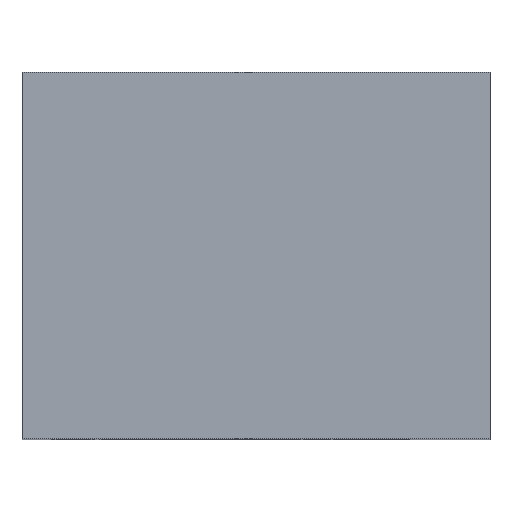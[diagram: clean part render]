
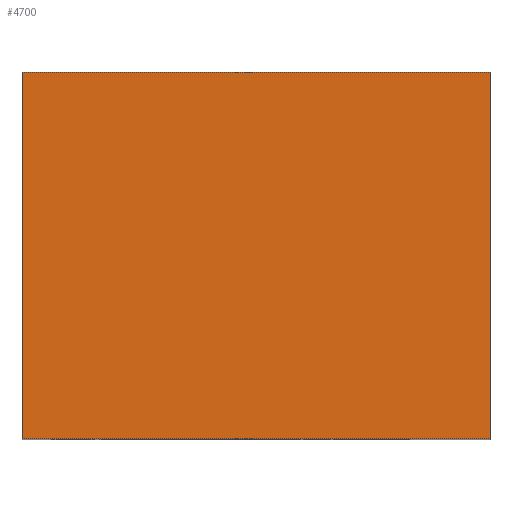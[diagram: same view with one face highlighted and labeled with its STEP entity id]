
A CAD part, top view. The second image highlights one B-rep face of the part: STEP entity #4700.
In plain terms, the highlighted planar face has unit normal (0, 0, 1).
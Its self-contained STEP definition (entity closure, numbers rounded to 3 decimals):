
#86=LINE('',#5720,#338);
#124=LINE('',#6670,#376);
#125=LINE('',#6672,#377);
#126=LINE('',#6674,#378);
#338=VECTOR('',#5073,1000.);
#376=VECTOR('',#5119,1000.);
#377=VECTOR('',#5122,1000.);
#378=VECTOR('',#5123,1000.);
#758=ORIENTED_EDGE('',*,*,#1755,.T.);
#759=ORIENTED_EDGE('',*,*,#1756,.F.);
#760=ORIENTED_EDGE('',*,*,#1605,.F.);
#761=ORIENTED_EDGE('',*,*,#1754,.T.);
#1605=EDGE_CURVE('',#2107,#2108,#86,.T.);
#1754=EDGE_CURVE('',#2107,#2252,#124,.T.);
#1755=EDGE_CURVE('',#2252,#2253,#125,.T.);
#1756=EDGE_CURVE('',#2108,#2253,#126,.T.);
#2107=VERTEX_POINT('',#5719);
#2108=VERTEX_POINT('',#5721);
#2252=VERTEX_POINT('',#6669);
#2253=VERTEX_POINT('',#6673);
#2699=EDGE_LOOP('',(#758,#759,#760,#761));
#2935=FACE_BOUND('',#2699,.T.);
#3148=PLANE('',#4906);
#4700=ADVANCED_FACE('',(#2935),#3148,.F.);
#4906=AXIS2_PLACEMENT_3D('',#6671,#5120,#5121);
#5073=DIRECTION('',(-1.,0.,0.));
#5119=DIRECTION('',(0.,1.,0.));
#5120=DIRECTION('',(0.,0.,-1.));
#5121=DIRECTION('',(-1.,0.,0.));
#5122=DIRECTION('',(-1.,0.,0.));
#5123=DIRECTION('',(0.,1.,0.));
#5719=CARTESIAN_POINT('',(5.75,-4.5,8.75));
#5720=CARTESIAN_POINT('',(5.75,-4.5,8.75));
#5721=CARTESIAN_POINT('',(-5.75,-4.5,8.75));
#6669=CARTESIAN_POINT('',(5.75,4.5,8.75));
#6670=CARTESIAN_POINT('',(5.75,-4.5,8.75));
#6671=CARTESIAN_POINT('',(5.75,-4.5,8.75));
#6672=CARTESIAN_POINT('',(5.75,4.5,8.75));
#6673=CARTESIAN_POINT('',(-5.75,4.5,8.75));
#6674=CARTESIAN_POINT('',(-5.75,-4.5,8.75));
